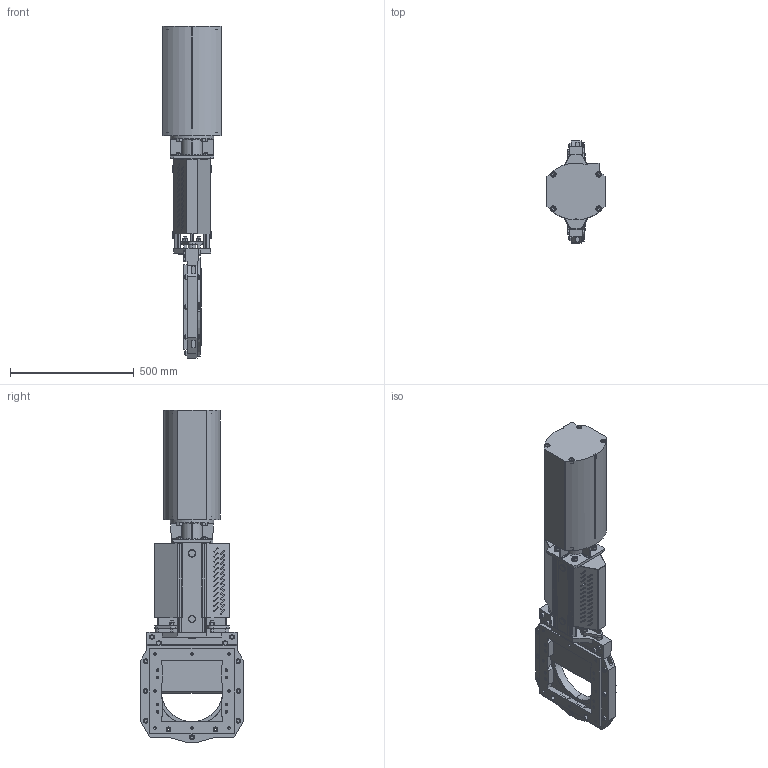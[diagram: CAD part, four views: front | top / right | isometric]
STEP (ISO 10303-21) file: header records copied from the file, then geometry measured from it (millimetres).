
FILE_DESCRIPTION(('STEP AP203'),'1');
FILE_NAME('F:/Alexander/tillfällig/RKO-DN250-EC200.stp','2013-04-08T14:44:59',(' '),(' '),'Spatial InterOp 3D',' ',' ');
FILE_SCHEMA(('CONFIG_CONTROL_DESIGN'));
Length unit declared in the file: millimetre
Products named in the file (3): 1; 2; 3
Bounding box: 236 x 412 x 1341 mm (x, y, z)
Volume: 30295950.2 mm3; surface area: 2283718.9 mm2
Topology: 3 solids, 27 shells, 2106 faces, 5327 edges, 3400 vertices
Faces by surface type: plane 927, cylinder 715, cone 414, torus 50
Entity records: 64516 total; most frequent: CARTESIAN_POINT 13666, DIRECTION 10858, ORIENTED_EDGE 10574, EDGE_CURVE 5287, AXIS2_PLACEMENT_3D 4102, VERTEX_POINT 3400, LINE 2654, VECTOR 2654
